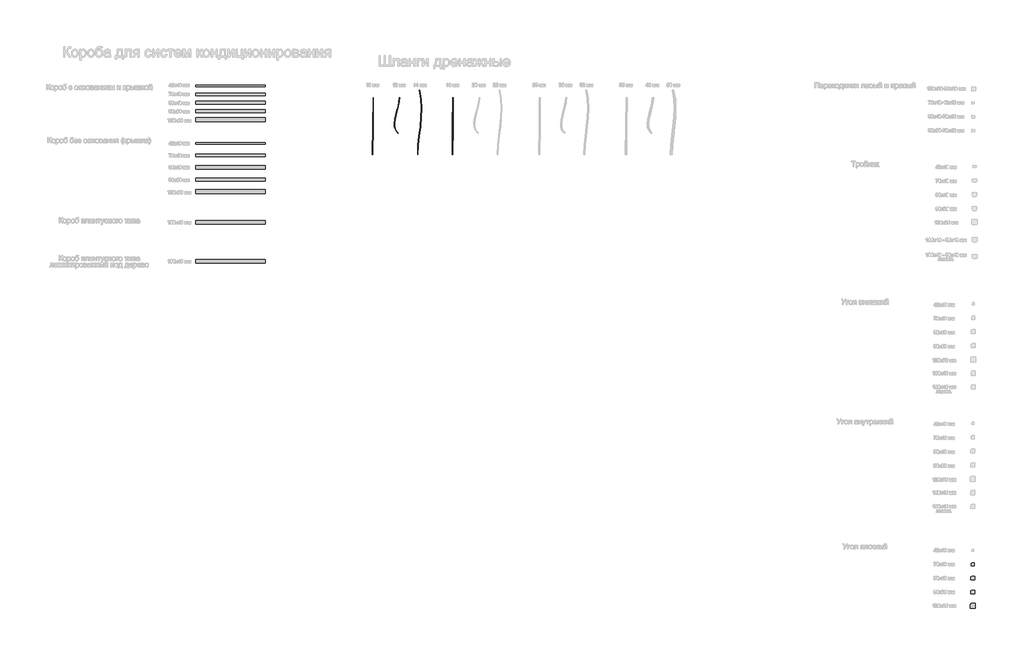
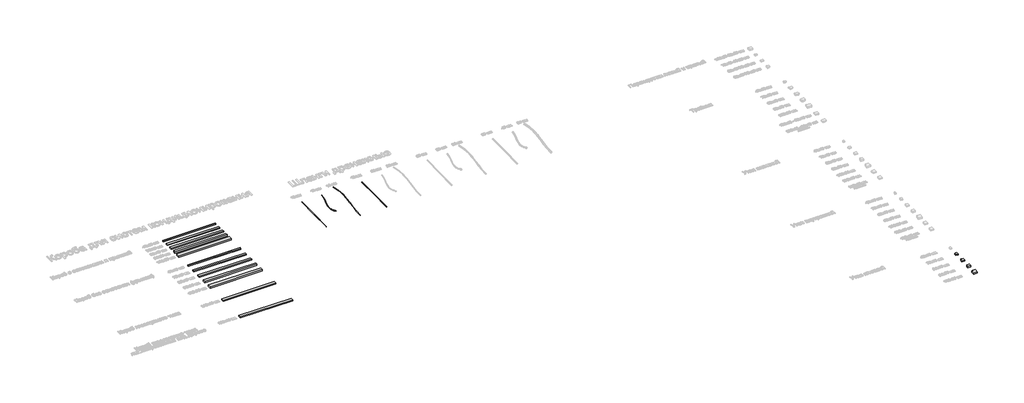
# One storey, part 1 of 21: 12 duct segments, 4 duct fittings, 4 pipe segments.
"""IFC4 building model written with IfcOpenShell, lengths in millimetres."""

from ifc_helpers import new_model, si_unit, frame, origin, place, context, project, spatial, polyline, circle_curve, ellipse_curve, outline, extrude, transform, mapped, element, save
from ifc_brep_helpers import plane_surface, cylinder_surface, advanced_brep
from components import duct_fitting_86009746, duct_fitting_a73f6a7c, duct_fitting_284b123f, duct_fitting_fdef7a42

model = new_model("IFC4")

# Units and contexts
model_context = context("Model", 3, world=origin())
ifc_project = project(units=[si_unit("LENGTHUNIT", "METRE", prefix="MILLI")], contexts=[model_context])

# Site, building, storey
site = spatial("IfcSite", under=ifc_project)
building = spatial("IfcBuilding", under=site)
storey = spatial("IfcBuildingStorey", under=building, Name="Этаж 01", Elevation=0.0)

# Duct fittings
placement = place(None, origin())
duct_fitting_shape = duct_fitting_86009746(model_context)
element("IfcDuctFitting", 1, ObjectType="КНС_Угол_DKC : Угол плоский", at=placement, inside=storey, context=model_context, shape_type="MappedRepresentation", body=[
    mapped(duct_fitting_shape, transform((23888.0062655, -16203.6960655, 0.0), x_axis=(1.0, 0.0, 0.0), y_axis=(0.0, 1.0, 0.0), z_axis=(0.0, 0.0, 1.0))),
])
duct_fitting_2_shape = duct_fitting_a73f6a7c(model_context)
element("IfcDuctFitting", 2, ObjectType="КНС_Угол_DKC : Угол плоский", at=placement, inside=storey, context=model_context, shape_type="MappedRepresentation", body=[
    mapped(duct_fitting_2_shape, transform((23888.0062655, -16603.6960655, 0.0), x_axis=(1.0, 0.0, 0.0), y_axis=(0.0, 1.0, 0.0), z_axis=(0.0, 0.0, 1.0))),
])
duct_fitting_3_shape = duct_fitting_284b123f(model_context)
element("IfcDuctFitting", 3, ObjectType="КНС_Угол_DKC : Угол плоский", at=placement, inside=storey, context=model_context, shape_type="MappedRepresentation", body=[
    mapped(duct_fitting_3_shape, transform((23888.0062655, -17003.6960655, 0.0), x_axis=(1.0, 0.0, 0.0), y_axis=(0.0, 1.0, 0.0), z_axis=(0.0, 0.0, 1.0))),
])
duct_fitting_4_shape = duct_fitting_fdef7a42(model_context)
element("IfcDuctFitting", 4, ObjectType="КНС_Угол_DKC : Угол плоский", at=placement, inside=storey, context=model_context, shape_type="MappedRepresentation", body=[
    mapped(duct_fitting_4_shape, transform((23888.0062655, -17403.6960655, 0.0), x_axis=(1.0, 0.0, 0.0), y_axis=(0.0, 1.0, 0.0), z_axis=(0.0, 0.0, 1.0))),
])

# Duct segments
element("IfcDuctSegment", 5, ObjectType="Короб для кондиционера (основание+крышка) ДКС", at=placement, inside=storey, context=model_context, shape_type="SweptSolid", body=[
    extrude(outline(polyline([(1495.7657353, -2426.4537627), (1495.7657353, -2384.4537627), (3496.956013, -2384.4537627), (3496.956013, -2426.4537627), (1495.7657353, -2426.4537627)])), frame((0.0, 0.0, -20.0), z_axis=(0.0, 0.0, 1.0), x_axis=(1.0, 0.0, 0.0)), (0.0, 0.0, 1.0), 40.0),
])
element("IfcDuctSegment", 6, ObjectType="Крышка (короба для кондиционеров) ДКС", at=placement, inside=storey, context=model_context, shape_type="SweptSolid", body=[
    extrude(outline(polyline([(1495.7657353, -4079.0585458), (1495.7657353, -4037.0585458), (3496.956013, -4037.0585458), (3496.956013, -4079.0585458), (1495.7657353, -4079.0585458)])), frame((0.0, 0.0, -20.0), z_axis=(0.0, 0.0, 1.0), x_axis=(1.0, 0.0, 0.0)), (0.0, 0.0, 1.0), 40.0),
])
element("IfcDuctSegment", 7, ObjectType="Короб для кондиционера (основание+крышка) ДКС", at=placement, inside=storey, context=model_context, shape_type="SweptSolid", body=[
    extrude(outline(polyline([(1495.7657353, -2683.8637998), (1495.7657353, -2613.8637998), (3496.956013, -2613.8637998), (3496.956013, -2683.8637998), (1495.7657353, -2683.8637998)])), frame((0.0, 0.0, -20.0), z_axis=(0.0, 0.0, 1.0), x_axis=(1.0, 0.0, 0.0)), (0.0, 0.0, 1.0), 40.0),
])
element("IfcDuctSegment", 8, ObjectType="Короб плинтусного типа ламинированный под дерево ДКС", at=placement, inside=storey, context=model_context, shape_type="SweptSolid", body=[
    extrude(outline(polyline([(1495.7657353, -7513.7500983), (1495.7657353, -7413.7500983), (3496.956013, -7413.7500983), (3496.956013, -7513.7500983), (1495.7657353, -7513.7500983)])), frame((0.0, 0.0, -20.0), z_axis=(0.0, 0.0, 1.0), x_axis=(1.0, 0.0, 0.0)), (0.0, 0.0, 1.0), 40.0),
])
element("IfcDuctSegment", 9, ObjectType="Короб плинтусного типа ДКС", at=placement, inside=storey, context=model_context, shape_type="SweptSolid", body=[
    extrude(outline(polyline([(3496.956013, -6288.0585458), (3496.956013, -6388.0585458), (1495.7657353, -6388.0585458), (1495.7657353, -6288.0585458), (3496.956013, -6288.0585458)])), frame((0.0, 0.0, -20.0), z_axis=(0.0, 0.0, 1.0), x_axis=(1.0, 0.0, 0.0)), (0.0, 0.0, 1.0), 40.0),
])
element("IfcDuctSegment", 10, ObjectType="Крышка (короба для кондиционеров) ДКС", at=placement, inside=storey, context=model_context, shape_type="SweptSolid", body=[
    extrude(outline(polyline([(1495.7657353, -4442.2090557), (1495.7657353, -4372.2090557), (3496.956013, -4372.2090557), (3496.956013, -4442.2090557), (1495.7657353, -4442.2090557)])), frame((0.0, 0.0, -20.0), z_axis=(0.0, 0.0, 1.0), x_axis=(1.0, 0.0, 0.0)), (0.0, 0.0, 1.0), 40.0),
])
element("IfcDuctSegment", 11, ObjectType="Короб для кондиционера (основание+крышка) ДКС", at=placement, inside=storey, context=model_context, shape_type="SweptSolid", body=[
    extrude(outline(polyline([(1495.7657353, -2937.2738369), (1495.7657353, -2847.2738369), (3496.956013, -2847.2738369), (3496.956013, -2937.2738369), (1495.7657353, -2937.2738369)])), frame((0.0, 0.0, -20.0), z_axis=(0.0, 0.0, 1.0), x_axis=(1.0, 0.0, 0.0)), (0.0, 0.0, 1.0), 40.0),
])
element("IfcDuctSegment", 12, ObjectType="Короб для кондиционера (основание+крышка) ДКС", at=placement, inside=storey, context=model_context, shape_type="SweptSolid", body=[
    extrude(outline(polyline([(1495.7657353, -3180.683874), (1495.7657353, -3090.683874), (3496.956013, -3090.683874), (3496.956013, -3180.683874), (1495.7657353, -3180.683874)])), frame((0.0, 0.0, -30.0), z_axis=(0.0, 0.0, 1.0), x_axis=(1.0, 0.0, 0.0)), (0.0, 0.0, 1.0), 60.0),
])
element("IfcDuctSegment", 13, ObjectType="Короб для кондиционера (основание+крышка) ДКС", at=placement, inside=storey, context=model_context, shape_type="SweptSolid", body=[
    extrude(outline(polyline([(1495.7657353, -3439.0939111), (1495.7657353, -3319.0939111), (3496.956013, -3319.0939111), (3496.956013, -3439.0939111), (1495.7657353, -3439.0939111)])), frame((0.0, 0.0, -30.0), z_axis=(0.0, 0.0, 1.0), x_axis=(1.0, 0.0, 0.0)), (0.0, 0.0, 1.0), 60.0),
])
element("IfcDuctSegment", 14, ObjectType="Крышка (короба для кондиционеров) ДКС", at=placement, inside=storey, context=model_context, shape_type="SweptSolid", body=[
    extrude(outline(polyline([(1495.7657353, -4801.3595656), (1495.7657353, -4711.3595656), (3496.956013, -4711.3595656), (3496.956013, -4801.3595656), (1495.7657353, -4801.3595656)])), frame((0.0, 0.0, -20.0), z_axis=(0.0, 0.0, 1.0), x_axis=(1.0, 0.0, 0.0)), (0.0, 0.0, 1.0), 40.0),
])
element("IfcDuctSegment", 15, ObjectType="Крышка (короба для кондиционеров) ДКС", at=placement, inside=storey, context=model_context, shape_type="SweptSolid", body=[
    extrude(outline(polyline([(1495.7657353, -5150.5100755), (1495.7657353, -5060.5100755), (3496.956013, -5060.5100755), (3496.956013, -5150.5100755), (1495.7657353, -5150.5100755)])), frame((0.0, 0.0, -30.0), z_axis=(0.0, 0.0, 1.0), x_axis=(1.0, 0.0, 0.0)), (0.0, 0.0, 1.0), 60.0),
])
element("IfcDuctSegment", 16, ObjectType="Крышка (короба для кондиционеров) ДКС", at=placement, inside=storey, context=model_context, shape_type="SweptSolid", body=[
    extrude(outline(polyline([(1495.7657353, -5514.6605854), (1495.7657353, -5394.6605854), (3496.956013, -5394.6605854), (3496.956013, -5514.6605854), (1495.7657353, -5514.6605854)])), frame((0.0, 0.0, -30.0), z_axis=(0.0, 0.0, 1.0), x_axis=(1.0, 0.0, 0.0)), (0.0, 0.0, 1.0), 60.0),
])

# Pipe segments
element("IfcPipeSegment", 17, ObjectType="Шланги дренажные ДКС", at=placement, inside=storey, context=model_context, shape_type="AdvancedBrep", body=[
    advanced_brep(
    [(7373.1834679, -2749.6838094, 0.0), (7367.2101295, -2749.1188064, -6.0), (7361.2367911, -2748.5538033, 0.0), (7367.2101295, -2749.1188064, 6.0), (7362.0967829, -2866.8947205, 0.0), (7356.1552474, -2865.9934903, -6.0), (7350.2137118, -2865.09226, 0.0), (7356.1552474, -2865.9934903, 6.0), (7328.2727497, -3761.8320843, 0.0), (7323.6037335, -3765.6004113, 6.0), (7318.9347173, -3769.3687382, 0.0), (7323.6037335, -3765.6004113, -6.0), (7336.2723222, -2990.0078864, 0.0), (7330.4331674, -2988.6185758, -6.0), (7324.5940127, -2987.2292651, 0.0), (7330.4331674, -2988.6185758, 6.0), (7302.7928672, -3115.6531471, 0.0), (7296.9951595, -3114.108289, -6.0), (7291.1974519, -3112.563431, 0.0), (7296.9951595, -3114.108289, 6.0), (7268.613939, -3241.0350079, 0.0), (7262.7924934, -3239.5768561, -6.0), (7256.9710479, -3238.1187043, 0.0), (7262.7924934, -3239.5768561, 6.0), (7240.6911328, -3363.1887221, 0.0), (7234.776439, -3362.1385031, -6.0), (7228.8617451, -3361.088284, 0.0), (7234.776439, -3362.1385031, 6.0), (7225.9166371, -3479.1439807, 0.0), (7219.8982659, -3478.907456, -6.0), (7213.8798948, -3478.6709312, 0.0), (7219.8982659, -3478.907456, 6.0), (7231.0624099, -3585.8819224, 0.0), (7225.1092441, -3586.9979409, -6.0), (7219.1560783, -3588.1139595, 0.0), (7225.1092441, -3586.9979409, 6.0), (7262.7087479, -3680.5972581, 0.0), (7257.3606434, -3683.524184, -6.0), (7252.0125389, -3686.4511099, 0.0), (7257.3606434, -3683.524184, 6.0)],
    [
        (0, 1, circle_curve(frame((7367.2101295, -2749.1188064, 0.0), z_axis=(0.09416717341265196, 0.9955563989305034, 0.0), x_axis=(0.9955563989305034, -0.09416717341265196, 0.0)), 6.0)),
        (1, 2, circle_curve(frame((7367.2101295, -2749.1188064, 0.0), z_axis=(0.09416717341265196, 0.9955563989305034, 0.0), x_axis=(0.9955563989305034, -0.09416717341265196, 0.0)), 6.0)),
        (2, 3, circle_curve(frame((7367.2101295, -2749.1188064, 0.0), z_axis=(0.09416717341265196, 0.9955563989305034, 0.0), x_axis=(0.9955563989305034, -0.09416717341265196, 0.0)), 6.0)),
        (3, 0, circle_curve(frame((7367.2101295, -2749.1188064, 0.0), z_axis=(0.09416717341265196, 0.9955563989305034, 0.0), x_axis=(0.9955563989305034, -0.09416717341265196, 0.0)), 6.0)),
        (0, 4),
        (4, 5, ellipse_curve(frame((7356.1552474, -2865.9934903, 0.0), z_axis=(0.14996765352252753, 0.9886909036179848, 0.0), x_axis=(-0.9886909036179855, 0.1499676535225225, 0.0)), 6.0094975, 6.0)),
        (5, 1),
        (5, 6, ellipse_curve(frame((7356.1552474, -2865.9934903, 0.0), z_axis=(0.14996765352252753, 0.9886909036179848, 0.0), x_axis=(-0.9886909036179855, 0.1499676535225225, 0.0)), 6.0094975, 6.0)),
        (6, 2),
        (6, 7, ellipse_curve(frame((7356.1552474, -2865.9934903, 0.0), z_axis=(0.14996765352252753, 0.9886909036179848, 0.0), x_axis=(-0.9886909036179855, 0.1499676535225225, 0.0)), 6.0094975, 6.0)),
        (7, 3),
        (7, 4, ellipse_curve(frame((7356.1552474, -2865.9934903, 0.0), z_axis=(0.14996765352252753, 0.9886909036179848, 0.0), x_axis=(-0.9886909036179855, 0.1499676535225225, 0.0)), 6.0094975, 6.0)),
        (8, 9, circle_curve(frame((7323.6037335, -3765.6004113, 0.0), z_axis=(0.6280544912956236, -0.7781693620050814, 0.0), x_axis=(0.7781693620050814, 0.6280544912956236, 0.0)), 6.0)),
        (9, 10, circle_curve(frame((7323.6037335, -3765.6004113, 0.0), z_axis=(0.6280544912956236, -0.7781693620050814, 0.0), x_axis=(0.7781693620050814, 0.6280544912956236, 0.0)), 6.0)),
        (10, 11, circle_curve(frame((7323.6037335, -3765.6004113, 0.0), z_axis=(0.6280544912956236, -0.7781693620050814, 0.0), x_axis=(0.7781693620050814, 0.6280544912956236, 0.0)), 6.0)),
        (11, 8, circle_curve(frame((7323.6037335, -3765.6004113, 0.0), z_axis=(0.6280544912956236, -0.7781693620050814, 0.0), x_axis=(0.7781693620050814, 0.6280544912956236, 0.0)), 6.0)),
        (4, 12),
        (12, 13, ellipse_curve(frame((7330.4331674, -2988.6185758, 0.0), z_axis=(0.23146848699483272, 0.9728424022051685, 0.0), x_axis=(-0.9728424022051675, 0.23146848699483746, 0.0)), 6.002159, 6.0)),
        (13, 5),
        (13, 14, ellipse_curve(frame((7330.4331674, -2988.6185758, 0.0), z_axis=(0.23146848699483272, 0.9728424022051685, 0.0), x_axis=(-0.9728424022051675, 0.23146848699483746, 0.0)), 6.002159, 6.0)),
        (14, 6),
        (14, 15, ellipse_curve(frame((7330.4331674, -2988.6185758, 0.0), z_axis=(0.23146848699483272, 0.9728424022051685, 0.0), x_axis=(-0.9728424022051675, 0.23146848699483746, 0.0)), 6.002159, 6.0)),
        (15, 7),
        (15, 12, ellipse_curve(frame((7330.4331674, -2988.6185758, 0.0), z_axis=(0.23146848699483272, 0.9728424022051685, 0.0), x_axis=(-0.9728424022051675, 0.23146848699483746, 0.0)), 6.002159, 6.0)),
        (12, 16),
        (16, 17, circle_curve(frame((7296.9951595, -3114.108289, 0.0), z_axis=(0.2574763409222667, 0.9662846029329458, 0.0), x_axis=(0.9662846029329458, -0.2574763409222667, 0.0)), 6.0)),
        (17, 13),
        (17, 18, circle_curve(frame((7296.9951595, -3114.108289, 0.0), z_axis=(0.2574763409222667, 0.9662846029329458, 0.0), x_axis=(0.9662846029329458, -0.2574763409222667, 0.0)), 6.0)),
        (18, 14),
        (18, 19, circle_curve(frame((7296.9951595, -3114.108289, 0.0), z_axis=(0.2574763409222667, 0.9662846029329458, 0.0), x_axis=(0.9662846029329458, -0.2574763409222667, 0.0)), 6.0)),
        (19, 15),
        (19, 16, circle_curve(frame((7296.9951595, -3114.108289, 0.0), z_axis=(0.2574763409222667, 0.9662846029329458, 0.0), x_axis=(0.9662846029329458, -0.2574763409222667, 0.0)), 6.0)),
        (16, 20),
        (20, 21, ellipse_curve(frame((7262.7924934, -3239.5768561, 0.0), z_axis=(0.24297321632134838, 0.970032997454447, 0.0), x_axis=(0.9700329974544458, -0.24297321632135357, 0.0)), 6.0012861, 6.0)),
        (21, 17),
        (21, 22, ellipse_curve(frame((7262.7924934, -3239.5768561, 0.0), z_axis=(0.24297321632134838, 0.970032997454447, 0.0), x_axis=(0.9700329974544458, -0.24297321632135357, 0.0)), 6.0012861, 6.0)),
        (22, 18),
        (22, 23, ellipse_curve(frame((7262.7924934, -3239.5768561, 0.0), z_axis=(0.24297321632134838, 0.970032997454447, 0.0), x_axis=(0.9700329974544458, -0.24297321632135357, 0.0)), 6.0012861, 6.0)),
        (23, 19),
        (23, 20, ellipse_curve(frame((7262.7924934, -3239.5768561, 0.0), z_axis=(0.24297321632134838, 0.970032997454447, 0.0), x_axis=(0.9700329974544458, -0.24297321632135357, 0.0)), 6.0012861, 6.0)),
        (20, 24),
        (24, 25, ellipse_curve(frame((7234.776439, -3362.1385031, 0.0), z_axis=(0.17482645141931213, 0.9845992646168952, 0.0), x_axis=(0.9845992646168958, -0.17482645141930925, 0.0)), 6.0072093, 6.0)),
        (25, 21),
        (25, 26, ellipse_curve(frame((7234.776439, -3362.1385031, 0.0), z_axis=(0.17482645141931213, 0.9845992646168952, 0.0), x_axis=(0.9845992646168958, -0.17482645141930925, 0.0)), 6.0072093, 6.0)),
        (26, 22),
        (26, 27, ellipse_curve(frame((7234.776439, -3362.1385031, 0.0), z_axis=(0.17482645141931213, 0.9845992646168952, 0.0), x_axis=(0.9845992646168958, -0.17482645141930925, 0.0)), 6.0072093, 6.0)),
        (27, 23),
        (27, 24, ellipse_curve(frame((7234.776439, -3362.1385031, 0.0), z_axis=(0.17482645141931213, 0.9845992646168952, 0.0), x_axis=(0.9845992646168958, -0.17482645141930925, 0.0)), 6.0072093, 6.0)),
        (24, 28),
        (28, 29, ellipse_curve(frame((7219.8982659, -3478.907456, 0.0), z_axis=(0.03927014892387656, 0.999228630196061, 0.0), x_axis=(0.9992286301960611, -0.039270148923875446, 0.0)), 6.0230171, 6.0)),
        (29, 25),
        (29, 30, ellipse_curve(frame((7219.8982659, -3478.907456, 0.0), z_axis=(0.03927014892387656, 0.999228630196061, 0.0), x_axis=(0.9992286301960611, -0.039270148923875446, 0.0)), 6.0230171, 6.0)),
        (30, 26),
        (30, 31, ellipse_curve(frame((7219.8982659, -3478.907456, 0.0), z_axis=(0.03927014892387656, 0.999228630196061, 0.0), x_axis=(0.9992286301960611, -0.039270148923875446, 0.0)), 6.0230171, 6.0)),
        (31, 27),
        (31, 28, ellipse_curve(frame((7219.8982659, -3478.907456, 0.0), z_axis=(0.03927014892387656, 0.999228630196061, 0.0), x_axis=(0.9992286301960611, -0.039270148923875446, 0.0)), 6.0230171, 6.0)),
        (28, 32),
        (32, 33, ellipse_curve(frame((7225.1092441, -3586.9979409, 0.0), z_axis=(-0.1842566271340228, 0.9828781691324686, 0.0), x_axis=(0.9828781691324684, 0.18425662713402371, 0.0)), 6.0568705, 6.0)),
        (33, 29),
        (33, 34, ellipse_curve(frame((7225.1092441, -3586.9979409, 0.0), z_axis=(-0.1842566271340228, 0.9828781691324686, 0.0), x_axis=(0.9828781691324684, 0.18425662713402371, 0.0)), 6.0568705, 6.0)),
        (34, 30),
        (34, 35, ellipse_curve(frame((7225.1092441, -3586.9979409, 0.0), z_axis=(-0.1842566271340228, 0.9828781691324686, 0.0), x_axis=(0.9828781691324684, 0.18425662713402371, 0.0)), 6.0568705, 6.0)),
        (35, 31),
        (35, 32, ellipse_curve(frame((7225.1092441, -3586.9979409, 0.0), z_axis=(-0.1842566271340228, 0.9828781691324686, 0.0), x_axis=(0.9828781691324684, 0.18425662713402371, 0.0)), 6.0568705, 6.0)),
        (32, 36),
        (36, 37, ellipse_curve(frame((7257.3606434, -3683.524184, 0.0), z_axis=(-0.4800877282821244, 0.8772204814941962, 0.0), x_axis=(0.877220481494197, 0.4800877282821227, 0.0)), 6.096648, 6.0)),
        (37, 33),
        (37, 38, ellipse_curve(frame((7257.3606434, -3683.524184, 0.0), z_axis=(-0.4800877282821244, 0.8772204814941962, 0.0), x_axis=(0.877220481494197, 0.4800877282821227, 0.0)), 6.096648, 6.0)),
        (38, 34),
        (38, 39, ellipse_curve(frame((7257.3606434, -3683.524184, 0.0), z_axis=(-0.4800877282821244, 0.8772204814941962, 0.0), x_axis=(0.877220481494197, 0.4800877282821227, 0.0)), 6.096648, 6.0)),
        (39, 35),
        (39, 36, ellipse_curve(frame((7257.3606434, -3683.524184, 0.0), z_axis=(-0.4800877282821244, 0.8772204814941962, 0.0), x_axis=(0.877220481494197, 0.4800877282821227, 0.0)), 6.096648, 6.0)),
        (36, 8),
        (11, 37),
        (10, 38),
        (9, 39),
    ],
    [
        plane_surface(frame((7367.2101295, -2749.1188064, -6.0), z_axis=(0.0941671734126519, 0.9955563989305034, 0.0), x_axis=(0.9955563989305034, -0.0941671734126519, 0.0))),
        cylinder_surface(frame((7367.2101295, -2749.1188064, 0.0), z_axis=(0.09416717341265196, 0.9955563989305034, 0.0), x_axis=(0.9955563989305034, -0.09416717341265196, 0.0)), 6.0),
        plane_surface(frame((7323.6037335, -3765.6004113, -6.0), z_axis=(0.6280544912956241, -0.7781693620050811, 0.0), x_axis=(0.7781693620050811, 0.6280544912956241, 0.0))),
        cylinder_surface(frame((7356.1552474, -2865.9934903, 0.0), z_axis=(0.20529411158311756, 0.9787003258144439, 0.0), x_axis=(0.9787003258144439, -0.20529411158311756, 0.0)), 6.0),
        cylinder_surface(frame((7330.4331674, -2988.6185758, 0.0), z_axis=(0.2574763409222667, 0.9662846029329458, 0.0), x_axis=(0.9662846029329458, -0.2574763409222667, 0.0)), 6.0),
        cylinder_surface(frame((7296.9951595, -3114.108289, 0.0), z_axis=(0.2630026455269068, 0.9647951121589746, 0.0), x_axis=(0.9647951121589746, -0.2630026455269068, 0.0)), 6.0),
        cylinder_surface(frame((7262.7924934, -3239.5768561, 0.0), z_axis=(0.2228396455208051, 0.974855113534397, 0.0), x_axis=(0.974855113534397, -0.2228396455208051, 0.0)), 6.0),
        cylinder_surface(frame((7234.776439, -3362.1385031, 0.0), z_axis=(0.12639363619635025, 0.9919801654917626, 0.0), x_axis=(0.9919801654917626, -0.12639363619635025, 0.0)), 6.0),
        cylinder_surface(frame((7219.8982659, -3478.907456, 0.0), z_axis=(-0.048153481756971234, 0.9988399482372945, 0.0), x_axis=(0.9988399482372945, 0.048153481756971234, 0.0)), 6.0),
        cylinder_surface(frame((7225.1092441, -3586.9979409, 0.0), z_axis=(-0.3168996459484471, 0.9484590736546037, 0.0), x_axis=(0.9484590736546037, 0.3168996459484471, 0.0)), 6.0),
        cylinder_surface(frame((7257.3606434, -3683.524184, 0.0), z_axis=(-0.6280544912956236, 0.7781693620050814, 0.0), x_axis=(0.7781693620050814, 0.6280544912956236, 0.0)), 6.0),
    ],
    [
        (0, [[1, 2, 3, 4]]),
        (1, [[-1, 5, 6, 7]]),
        (1, [[-2, -7, 8, 9]]),
        (1, [[-3, -9, 10, 11]]),
        (1, [[-4, -11, 12, -5]]),
        (2, [[13, 14, 15, 16]]),
        (3, [[-6, 17, 18, 19]]),
        (3, [[-8, -19, 20, 21]]),
        (3, [[-10, -21, 22, 23]]),
        (3, [[-12, -23, 24, -17]]),
        (4, [[-18, 25, 26, 27]]),
        (4, [[-20, -27, 28, 29]]),
        (4, [[-22, -29, 30, 31]]),
        (4, [[-24, -31, 32, -25]]),
        (5, [[-26, 33, 34, 35]]),
        (5, [[-28, -35, 36, 37]]),
        (5, [[-30, -37, 38, 39]]),
        (5, [[-32, -39, 40, -33]]),
        (6, [[-34, 41, 42, 43]]),
        (6, [[-36, -43, 44, 45]]),
        (6, [[-38, -45, 46, 47]]),
        (6, [[-40, -47, 48, -41]]),
        (7, [[-42, 49, 50, 51]]),
        (7, [[-44, -51, 52, 53]]),
        (7, [[-46, -53, 54, 55]]),
        (7, [[-48, -55, 56, -49]]),
        (8, [[-50, 57, 58, 59]]),
        (8, [[-52, -59, 60, 61]]),
        (8, [[-54, -61, 62, 63]]),
        (8, [[-56, -63, 64, -57]]),
        (9, [[-58, 65, 66, 67]]),
        (9, [[-60, -67, 68, 69]]),
        (9, [[-62, -69, 70, 71]]),
        (9, [[-64, -71, 72, -65]]),
        (10, [[-66, 73, -16, 74]]),
        (10, [[-68, -74, -15, 75]]),
        (10, [[-70, -75, -14, 76]]),
        (10, [[-72, -76, -13, -73]]),
    ],
),
])
element("IfcPipeSegment", 18, ObjectType="Шланги дренажные ДКС", at=placement, inside=storey, context=model_context, shape_type="AdvancedBrep", body=[
    advanced_brep(
    [(7950.9845966, -2526.9441661, 0.0), (7944.0909127, -2528.159535, -7.0), (7937.1972287, -2529.3749038, 0.0), (7944.0909127, -2528.159535, 7.0), (7996.7401594, -2786.4739243, 0.0), (7989.7682496, -2787.2455891, -7.0), (7982.7963398, -2788.0172539, 0.0), (7989.7682496, -2787.2455891, 7.0), (7897.7933553, -4384.0683458, 0.0), (7890.8022237, -4383.716097, 7.0), (7883.8110921, -4383.3638481, 0.0), (7890.8022237, -4383.716097, -7.0), (8008.858503, -3049.9706262, 0.0), (8001.8512205, -3049.9731598, -7.0), (7994.843938, -3049.9756935, 0.0), (8001.8512205, -3049.9731598, 7.0), (7996.8227218, -3315.8616988, 0.0), (7989.8384436, -3315.3560282, -7.0), (7982.8541654, -3314.8503576, 0.0), (7989.8384436, -3315.3560282, 7.0), (7970.1940432, -3583.1020404, 0.0), (7963.2285373, -3582.4079752, -7.0), (7956.2630313, -3581.71391, 0.0), (7963.2285373, -3582.4079752, 7.0), (7938.4715385, -3850.9660534, 0.0), (7931.5201197, -3850.1427817, -7.0), (7924.5687008, -3849.3195099, 0.0), (7931.5201197, -3850.1427817, 7.0), (7911.1938827, -4118.1062523, 0.0), (7904.2118091, -4117.5742286, -7.0), (7897.2297355, -4117.0422049, 0.0), (7904.2118091, -4117.5742286, 7.0)],
    [
        (0, 1, circle_curve(frame((7944.0909127, -2528.159535, 0.0), z_axis=(-0.17362412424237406, 0.9848119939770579, 0.0), x_axis=(0.9848119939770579, 0.17362412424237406, 0.0)), 7.0)),
        (1, 2, circle_curve(frame((7944.0909127, -2528.159535, 0.0), z_axis=(-0.17362412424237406, 0.9848119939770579, 0.0), x_axis=(0.9848119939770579, 0.17362412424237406, 0.0)), 7.0)),
        (2, 3, circle_curve(frame((7944.0909127, -2528.159535, 0.0), z_axis=(-0.17362412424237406, 0.9848119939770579, 0.0), x_axis=(0.9848119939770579, 0.17362412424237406, 0.0)), 7.0)),
        (3, 0, circle_curve(frame((7944.0909127, -2528.159535, 0.0), z_axis=(-0.17362412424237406, 0.9848119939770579, 0.0), x_axis=(0.9848119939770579, 0.17362412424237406, 0.0)), 7.0)),
        (0, 4),
        (4, 5, ellipse_curve(frame((7989.7682496, -2787.2455891, 0.0), z_axis=(-0.11001019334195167, 0.9939304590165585, 0.0), x_axis=(-0.9939304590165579, -0.11001019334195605, 0.0)), 7.0144845, 7.0)),
        (5, 1),
        (5, 6, ellipse_curve(frame((7989.7682496, -2787.2455891, 0.0), z_axis=(-0.11001019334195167, 0.9939304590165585, 0.0), x_axis=(-0.9939304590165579, -0.11001019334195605, 0.0)), 7.0144845, 7.0)),
        (6, 2),
        (6, 7, ellipse_curve(frame((7989.7682496, -2787.2455891, 0.0), z_axis=(-0.11001019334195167, 0.9939304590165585, 0.0), x_axis=(-0.9939304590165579, -0.11001019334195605, 0.0)), 7.0144845, 7.0)),
        (7, 3),
        (7, 4, ellipse_curve(frame((7989.7682496, -2787.2455891, 0.0), z_axis=(-0.11001019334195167, 0.9939304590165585, 0.0), x_axis=(-0.9939304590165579, -0.11001019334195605, 0.0)), 7.0144845, 7.0)),
        (8, 9, circle_curve(frame((7890.8022237, -4383.716097, 0.0), z_axis=(-0.05032126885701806, -0.9987330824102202, 0.0), x_axis=(0.9987330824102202, -0.05032126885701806, 0.0)), 7.0)),
        (9, 10, circle_curve(frame((7890.8022237, -4383.716097, 0.0), z_axis=(-0.05032126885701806, -0.9987330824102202, 0.0), x_axis=(0.9987330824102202, -0.05032126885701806, 0.0)), 7.0)),
        (10, 11, circle_curve(frame((7890.8022237, -4383.716097, 0.0), z_axis=(-0.05032126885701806, -0.9987330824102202, 0.0), x_axis=(0.9987330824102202, -0.05032126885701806, 0.0)), 7.0)),
        (11, 8, circle_curve(frame((7890.8022237, -4383.716097, 0.0), z_axis=(-0.05032126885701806, -0.9987330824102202, 0.0), x_axis=(0.9987330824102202, -0.05032126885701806, 0.0)), 7.0)),
        (4, 12),
        (12, 13, ellipse_curve(frame((8001.8512205, -3049.9731598, 0.0), z_axis=(-0.0003615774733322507, 0.9999999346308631, 0.0), x_axis=(-0.9999999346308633, -0.00036157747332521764, 0.0)), 7.007283, 7.0)),
        (13, 5),
        (13, 14, ellipse_curve(frame((8001.8512205, -3049.9731598, 0.0), z_axis=(-0.0003615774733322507, 0.9999999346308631, 0.0), x_axis=(-0.9999999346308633, -0.00036157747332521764, 0.0)), 7.007283, 7.0)),
        (14, 6),
        (14, 15, ellipse_curve(frame((8001.8512205, -3049.9731598, 0.0), z_axis=(-0.0003615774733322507, 0.9999999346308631, 0.0), x_axis=(-0.9999999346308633, -0.00036157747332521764, 0.0)), 7.007283, 7.0)),
        (15, 7),
        (15, 12, ellipse_curve(frame((8001.8512205, -3049.9731598, 0.0), z_axis=(-0.0003615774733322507, 0.9999999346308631, 0.0), x_axis=(-0.9999999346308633, -0.00036157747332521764, 0.0)), 7.007283, 7.0)),
        (12, 16),
        (16, 17, ellipse_curve(frame((7989.8384436, -3315.3560282, 0.0), z_axis=(0.07221224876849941, 0.9973892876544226, 0.0), x_axis=(-0.9973892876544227, 0.07221224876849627, 0.0)), 7.0025599, 7.0)),
        (17, 13),
        (17, 18, ellipse_curve(frame((7989.8384436, -3315.3560282, 0.0), z_axis=(0.07221224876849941, 0.9973892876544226, 0.0), x_axis=(-0.9973892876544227, 0.07221224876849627, 0.0)), 7.0025599, 7.0)),
        (18, 14),
        (18, 19, ellipse_curve(frame((7989.8384436, -3315.3560282, 0.0), z_axis=(0.07221224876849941, 0.9973892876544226, 0.0), x_axis=(-0.9973892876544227, 0.07221224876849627, 0.0)), 7.0025599, 7.0)),
        (19, 15),
        (19, 16, ellipse_curve(frame((7989.8384436, -3315.3560282, 0.0), z_axis=(0.07221224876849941, 0.9973892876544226, 0.0), x_axis=(-0.9973892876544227, 0.07221224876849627, 0.0)), 7.0025599, 7.0)),
        (16, 20),
        (20, 21, circle_curve(frame((7963.2285373, -3582.4079752, 0.0), z_axis=(0.09915217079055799, 0.9950722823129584, 0.0), x_axis=(0.9950722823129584, -0.09915217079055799, 0.0)), 7.0)),
        (21, 17),
        (21, 22, circle_curve(frame((7963.2285373, -3582.4079752, 0.0), z_axis=(0.09915217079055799, 0.9950722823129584, 0.0), x_axis=(0.9950722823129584, -0.09915217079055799, 0.0)), 7.0)),
        (22, 18),
        (22, 23, circle_curve(frame((7963.2285373, -3582.4079752, 0.0), z_axis=(0.09915217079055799, 0.9950722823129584, 0.0), x_axis=(0.9950722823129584, -0.09915217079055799, 0.0)), 7.0)),
        (23, 19),
        (23, 20, circle_curve(frame((7963.2285373, -3582.4079752, 0.0), z_axis=(0.09915217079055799, 0.9950722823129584, 0.0), x_axis=(0.9950722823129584, -0.09915217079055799, 0.0)), 7.0)),
        (20, 24),
        (24, 25, circle_curve(frame((7931.5201197, -3850.1427817, 0.0), z_axis=(0.11761024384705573, 0.9930598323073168, 0.0), x_axis=(0.9930598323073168, -0.11761024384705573, 0.0)), 7.0)),
        (25, 21),
        (25, 26, circle_curve(frame((7931.5201197, -3850.1427817, 0.0), z_axis=(0.11761024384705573, 0.9930598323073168, 0.0), x_axis=(0.9930598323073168, -0.11761024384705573, 0.0)), 7.0)),
        (26, 22),
        (26, 27, circle_curve(frame((7931.5201197, -3850.1427817, 0.0), z_axis=(0.11761024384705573, 0.9930598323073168, 0.0), x_axis=(0.9930598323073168, -0.11761024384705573, 0.0)), 7.0)),
        (27, 23),
        (27, 24, circle_curve(frame((7931.5201197, -3850.1427817, 0.0), z_axis=(0.11761024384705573, 0.9930598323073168, 0.0), x_axis=(0.9930598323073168, -0.11761024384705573, 0.0)), 7.0)),
        (24, 28),
        (28, 29, ellipse_curve(frame((7904.2118091, -4117.5742286, 0.0), z_axis=(0.07597827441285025, 0.9971094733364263, 0.0), x_axis=(0.9971094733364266, -0.07597827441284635, 0.0)), 7.002314, 7.0)),
        (29, 25),
        (29, 30, ellipse_curve(frame((7904.2118091, -4117.5742286, 0.0), z_axis=(0.07597827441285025, 0.9971094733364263, 0.0), x_axis=(0.9971094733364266, -0.07597827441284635, 0.0)), 7.002314, 7.0)),
        (30, 26),
        (30, 31, ellipse_curve(frame((7904.2118091, -4117.5742286, 0.0), z_axis=(0.07597827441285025, 0.9971094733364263, 0.0), x_axis=(0.9971094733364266, -0.07597827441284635, 0.0)), 7.002314, 7.0)),
        (31, 27),
        (31, 28, ellipse_curve(frame((7904.2118091, -4117.5742286, 0.0), z_axis=(0.07597827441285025, 0.9971094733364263, 0.0), x_axis=(0.9971094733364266, -0.07597827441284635, 0.0)), 7.002314, 7.0)),
        (28, 8),
        (11, 29),
        (10, 30),
        (9, 31),
    ],
    [
        plane_surface(frame((7944.0909127, -2528.159535, -7.0), z_axis=(-0.17362412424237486, 0.9848119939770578, 0.0), x_axis=(0.9848119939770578, 0.17362412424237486, 0.0))),
        cylinder_surface(frame((7944.0909127, -2528.159535, 0.0), z_axis=(-0.17362412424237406, 0.9848119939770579, 0.0), x_axis=(0.9848119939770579, 0.17362412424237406, 0.0)), 7.0),
        plane_surface(frame((7890.8022237, -4383.716097, -7.0), z_axis=(-0.05032126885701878, -0.9987330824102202, 0.0), x_axis=(0.9987330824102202, -0.05032126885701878, 0.0))),
        cylinder_surface(frame((7989.7682496, -2787.2455891, 0.0), z_axis=(-0.045941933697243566, 0.9989441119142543, 0.0), x_axis=(0.9989441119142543, 0.045941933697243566, 0.0)), 7.0),
        cylinder_surface(frame((8001.8512205, -3049.9731598, 0.0), z_axis=(0.045219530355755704, 0.9989770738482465, 0.0), x_axis=(0.9989770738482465, -0.045219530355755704, 0.0)), 7.0),
        cylinder_surface(frame((7989.8384436, -3315.3560282, 0.0), z_axis=(0.09915217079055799, 0.9950722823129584, 0.0), x_axis=(0.9950722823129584, -0.09915217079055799, 0.0)), 7.0),
        cylinder_surface(frame((7963.2285373, -3582.4079752, 0.0), z_axis=(0.11761024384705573, 0.9930598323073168, 0.0), x_axis=(0.9930598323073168, -0.11761024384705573, 0.0)), 7.0),
        cylinder_surface(frame((7931.5201197, -3850.1427817, 0.0), z_axis=(0.10158506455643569, 0.9948268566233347, 0.0), x_axis=(0.9948268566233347, -0.10158506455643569, 0.0)), 7.0),
        cylinder_surface(frame((7904.2118091, -4117.5742286, 0.0), z_axis=(0.05032126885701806, 0.9987330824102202, 0.0), x_axis=(0.9987330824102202, -0.05032126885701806, 0.0)), 7.0),
    ],
    [
        (0, [[1, 2, 3, 4]]),
        (1, [[-1, 5, 6, 7]]),
        (1, [[-2, -7, 8, 9]]),
        (1, [[-3, -9, 10, 11]]),
        (1, [[-4, -11, 12, -5]]),
        (2, [[13, 14, 15, 16]]),
        (3, [[-6, 17, 18, 19]]),
        (3, [[-8, -19, 20, 21]]),
        (3, [[-10, -21, 22, 23]]),
        (3, [[-12, -23, 24, -17]]),
        (4, [[-18, 25, 26, 27]]),
        (4, [[-20, -27, 28, 29]]),
        (4, [[-22, -29, 30, 31]]),
        (4, [[-24, -31, 32, -25]]),
        (5, [[-26, 33, 34, 35]]),
        (5, [[-28, -35, 36, 37]]),
        (5, [[-30, -37, 38, 39]]),
        (5, [[-32, -39, 40, -33]]),
        (6, [[-34, 41, 42, 43]]),
        (6, [[-36, -43, 44, 45]]),
        (6, [[-38, -45, 46, 47]]),
        (6, [[-40, -47, 48, -41]]),
        (7, [[-42, 49, 50, 51]]),
        (7, [[-44, -51, 52, 53]]),
        (7, [[-46, -53, 54, 55]]),
        (7, [[-48, -55, 56, -49]]),
        (8, [[-50, 57, -16, 58]]),
        (8, [[-52, -58, -15, 59]]),
        (8, [[-54, -59, -14, 60]]),
        (8, [[-56, -60, -13, -57]]),
    ],
),
])
element("IfcPipeSegment", 19, ObjectType="Шланги дренажные ДКС", at=placement, inside=storey, context=model_context, shape_type="AdvancedBrep", body=[
    advanced_brep(
    [(6612.2098776, -2749.1689933, 0.0), (6607.2101295, -2749.1188064, -5.0), (6602.2103813, -2749.0686195, 0.0), (6607.2101295, -2749.1188064, 5.0), (6604.0059247, -3566.4676386, 0.0), (6599.0061766, -3566.4174517, -5.0), (6594.0064285, -3566.3672648, 0.0), (6599.0061766, -3566.4174517, 5.0), (6595.8019718, -4383.7662839, 0.0), (6590.8022237, -4383.716097, 5.0), (6585.8024756, -4383.66591, 0.0), (6590.8022237, -4383.716097, -5.0)],
    [
        (0, 1, circle_curve(frame((6607.2101295, -2749.1188064, 0.0), z_axis=(0.010037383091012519, 0.9999496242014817, 0.0), x_axis=(0.9999496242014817, -0.010037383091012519, 0.0)), 5.0)),
        (1, 2, circle_curve(frame((6607.2101295, -2749.1188064, 0.0), z_axis=(0.010037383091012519, 0.9999496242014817, 0.0), x_axis=(0.9999496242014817, -0.010037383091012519, 0.0)), 5.0)),
        (2, 3, circle_curve(frame((6607.2101295, -2749.1188064, 0.0), z_axis=(0.010037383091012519, 0.9999496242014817, 0.0), x_axis=(0.9999496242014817, -0.010037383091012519, 0.0)), 5.0)),
        (3, 0, circle_curve(frame((6607.2101295, -2749.1188064, 0.0), z_axis=(0.010037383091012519, 0.9999496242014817, 0.0), x_axis=(0.9999496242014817, -0.010037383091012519, 0.0)), 5.0)),
        (0, 4),
        (4, 5, circle_curve(frame((6599.0061766, -3566.4174517, 0.0), z_axis=(0.010037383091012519, 0.9999496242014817, 0.0), x_axis=(0.9999496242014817, -0.010037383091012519, 0.0)), 5.0)),
        (5, 1),
        (5, 6, circle_curve(frame((6599.0061766, -3566.4174517, 0.0), z_axis=(0.010037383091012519, 0.9999496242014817, 0.0), x_axis=(0.9999496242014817, -0.010037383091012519, 0.0)), 5.0)),
        (6, 2),
        (6, 7, circle_curve(frame((6599.0061766, -3566.4174517, 0.0), z_axis=(0.010037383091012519, 0.9999496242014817, 0.0), x_axis=(0.9999496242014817, -0.010037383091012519, 0.0)), 5.0)),
        (7, 3),
        (7, 4, circle_curve(frame((6599.0061766, -3566.4174517, 0.0), z_axis=(0.010037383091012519, 0.9999496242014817, 0.0), x_axis=(0.9999496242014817, -0.010037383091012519, 0.0)), 5.0)),
        (8, 9, circle_curve(frame((6590.8022237, -4383.716097, 0.0), z_axis=(-0.010037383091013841, -0.9999496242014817, 0.0), x_axis=(0.9999496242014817, -0.010037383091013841, 0.0)), 5.0)),
        (9, 10, circle_curve(frame((6590.8022237, -4383.716097, 0.0), z_axis=(-0.010037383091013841, -0.9999496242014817, 0.0), x_axis=(0.9999496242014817, -0.010037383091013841, 0.0)), 5.0)),
        (10, 11, circle_curve(frame((6590.8022237, -4383.716097, 0.0), z_axis=(-0.010037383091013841, -0.9999496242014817, 0.0), x_axis=(0.9999496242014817, -0.010037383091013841, 0.0)), 5.0)),
        (11, 8, circle_curve(frame((6590.8022237, -4383.716097, 0.0), z_axis=(-0.010037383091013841, -0.9999496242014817, 0.0), x_axis=(0.9999496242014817, -0.010037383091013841, 0.0)), 5.0)),
        (4, 8),
        (11, 5),
        (10, 6),
        (9, 7),
    ],
    [
        plane_surface(frame((6607.2101295, -2749.1188064, -5.0), z_axis=(0.010037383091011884, 0.9999496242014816, 0.0), x_axis=(0.9999496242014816, -0.010037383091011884, 0.0))),
        cylinder_surface(frame((6607.2101295, -2749.1188064, 0.0), z_axis=(0.010037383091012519, 0.9999496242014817, 0.0), x_axis=(0.9999496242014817, -0.010037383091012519, 0.0)), 5.0),
        plane_surface(frame((6590.8022237, -4383.716097, -5.0), z_axis=(-0.01003738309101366, -0.9999496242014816, 0.0), x_axis=(0.9999496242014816, -0.01003738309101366, 0.0))),
        cylinder_surface(frame((6599.0061766, -3566.4174517, 0.0), z_axis=(0.010037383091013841, 0.9999496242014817, 0.0), x_axis=(0.9999496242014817, -0.010037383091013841, 0.0)), 5.0),
    ],
    [
        (0, [[1, 2, 3, 4]]),
        (1, [[-1, 5, 6, 7]]),
        (1, [[-2, -7, 8, 9]]),
        (1, [[-3, -9, 10, 11]]),
        (1, [[-4, -11, 12, -5]]),
        (2, [[13, 14, 15, 16]]),
        (3, [[-6, 17, -16, 18]]),
        (3, [[-8, -18, -15, 19]]),
        (3, [[-10, -19, -14, 20]]),
        (3, [[-12, -20, -13, -17]]),
    ],
),
])
element("IfcPipeSegment", 20, ObjectType="Шланги дренажные ДКС", at=placement, inside=storey, context=model_context, shape_type="AdvancedBrep", body=[
    advanced_brep(
    [(8915.2097265, -2749.1991055, 0.0), (8907.2101295, -2749.1188064, -8.0), (8899.2105325, -2749.0385073, 0.0), (8907.2101295, -2749.1188064, 8.0), (8907.0057736, -3566.4977507, 0.0), (8899.0061766, -3566.4174517, -8.0), (8891.0065796, -3566.3371526, 0.0), (8899.0061766, -3566.4174517, 8.0), (8898.8018207, -4383.796396, 0.0), (8890.8022237, -4383.716097, 8.0), (8882.8026267, -4383.6357979, 0.0), (8890.8022237, -4383.716097, -8.0)],
    [
        (0, 1, circle_curve(frame((8907.2101295, -2749.1188064, 0.0), z_axis=(0.010037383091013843, 0.9999496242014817, 0.0), x_axis=(0.9999496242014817, -0.010037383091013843, 0.0)), 8.0)),
        (1, 2, circle_curve(frame((8907.2101295, -2749.1188064, 0.0), z_axis=(0.010037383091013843, 0.9999496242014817, 0.0), x_axis=(0.9999496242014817, -0.010037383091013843, 0.0)), 8.0)),
        (2, 3, circle_curve(frame((8907.2101295, -2749.1188064, 0.0), z_axis=(0.010037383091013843, 0.9999496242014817, 0.0), x_axis=(0.9999496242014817, -0.010037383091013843, 0.0)), 8.0)),
        (3, 0, circle_curve(frame((8907.2101295, -2749.1188064, 0.0), z_axis=(0.010037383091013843, 0.9999496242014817, 0.0), x_axis=(0.9999496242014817, -0.010037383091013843, 0.0)), 8.0)),
        (0, 4),
        (4, 5, circle_curve(frame((8899.0061766, -3566.4174517, 0.0), z_axis=(0.010037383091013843, 0.9999496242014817, 0.0), x_axis=(0.9999496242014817, -0.010037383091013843, 0.0)), 8.0)),
        (5, 1),
        (5, 6, circle_curve(frame((8899.0061766, -3566.4174517, 0.0), z_axis=(0.010037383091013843, 0.9999496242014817, 0.0), x_axis=(0.9999496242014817, -0.010037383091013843, 0.0)), 8.0)),
        (6, 2),
        (6, 7, circle_curve(frame((8899.0061766, -3566.4174517, 0.0), z_axis=(0.010037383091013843, 0.9999496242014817, 0.0), x_axis=(0.9999496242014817, -0.010037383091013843, 0.0)), 8.0)),
        (7, 3),
        (7, 4, circle_curve(frame((8899.0061766, -3566.4174517, 0.0), z_axis=(0.010037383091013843, 0.9999496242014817, 0.0), x_axis=(0.9999496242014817, -0.010037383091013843, 0.0)), 8.0)),
        (8, 9, circle_curve(frame((8890.8022237, -4383.716097, 0.0), z_axis=(-0.010037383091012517, -0.9999496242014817, 0.0), x_axis=(0.9999496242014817, -0.010037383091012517, 0.0)), 8.0)),
        (9, 10, circle_curve(frame((8890.8022237, -4383.716097, 0.0), z_axis=(-0.010037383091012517, -0.9999496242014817, 0.0), x_axis=(0.9999496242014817, -0.010037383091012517, 0.0)), 8.0)),
        (10, 11, circle_curve(frame((8890.8022237, -4383.716097, 0.0), z_axis=(-0.010037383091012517, -0.9999496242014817, 0.0), x_axis=(0.9999496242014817, -0.010037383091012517, 0.0)), 8.0)),
        (11, 8, circle_curve(frame((8890.8022237, -4383.716097, 0.0), z_axis=(-0.010037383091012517, -0.9999496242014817, 0.0), x_axis=(0.9999496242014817, -0.010037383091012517, 0.0)), 8.0)),
        (4, 8),
        (11, 5),
        (10, 6),
        (9, 7),
    ],
    [
        plane_surface(frame((8907.2101295, -2749.1188064, -8.0), z_axis=(0.01003738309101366, 0.9999496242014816, 0.0), x_axis=(0.9999496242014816, -0.01003738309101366, 0.0))),
        cylinder_surface(frame((8907.2101295, -2749.1188064, 0.0), z_axis=(0.010037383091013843, 0.9999496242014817, 0.0), x_axis=(0.9999496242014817, -0.010037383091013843, 0.0)), 8.0),
        plane_surface(frame((8890.8022237, -4383.716097, -8.0), z_axis=(-0.010037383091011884, -0.9999496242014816, 0.0), x_axis=(0.9999496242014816, -0.010037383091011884, 0.0))),
        cylinder_surface(frame((8899.0061766, -3566.4174517, 0.0), z_axis=(0.010037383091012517, 0.9999496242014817, 0.0), x_axis=(0.9999496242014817, -0.010037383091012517, 0.0)), 8.0),
    ],
    [
        (0, [[1, 2, 3, 4]]),
        (1, [[-1, 5, 6, 7]]),
        (1, [[-2, -7, 8, 9]]),
        (1, [[-3, -9, 10, 11]]),
        (1, [[-4, -11, 12, -5]]),
        (2, [[13, 14, 15, 16]]),
        (3, [[-6, 17, -16, 18]]),
        (3, [[-8, -18, -15, 19]]),
        (3, [[-10, -19, -14, 20]]),
        (3, [[-12, -20, -13, -17]]),
    ],
),
])

save(model, "model.ifc")
